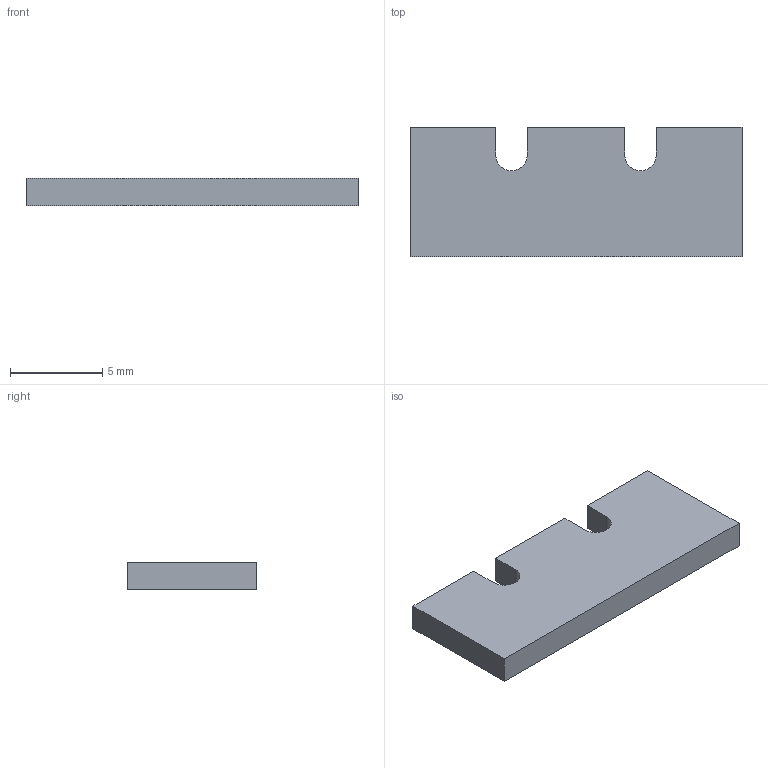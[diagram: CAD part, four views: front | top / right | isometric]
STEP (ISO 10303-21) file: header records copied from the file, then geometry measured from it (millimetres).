
FILE_DESCRIPTION(('Open CASCADE Model'),'2;1');
FILE_NAME('Open CASCADE Shape Model','2026-10-30T11:48:03',('Author'),( 'Open CASCADE'),'Open CASCADE STEP processor 7.9','Open CASCADE 7.9' ,'Unknown');
FILE_SCHEMA(('AUTOMOTIVE_DESIGN { 1 0 10303 214 1 1 1 1 }'));
Length unit declared in the file: millimetre
Products named in the file (1): Open CASCADE STEP translator 7.9 3
Bounding box: 18 x 7 x 1.5 mm (x, y, z)
Volume: 177.9 mm3; surface area: 324.2 mm2
Topology: 1 solids, 1 shells, 14 faces, 36 edges, 24 vertices
Faces by surface type: plane 12, cylinder 2
Entity records: 890 total; most frequent: CARTESIAN_POINT 195, DIRECTION 114, LINE 76, VECTOR 76, ORIENTED_EDGE 72, PCURVE 72, DEFINITIONAL_REPRESENTATION 72, EDGE_CURVE 36
